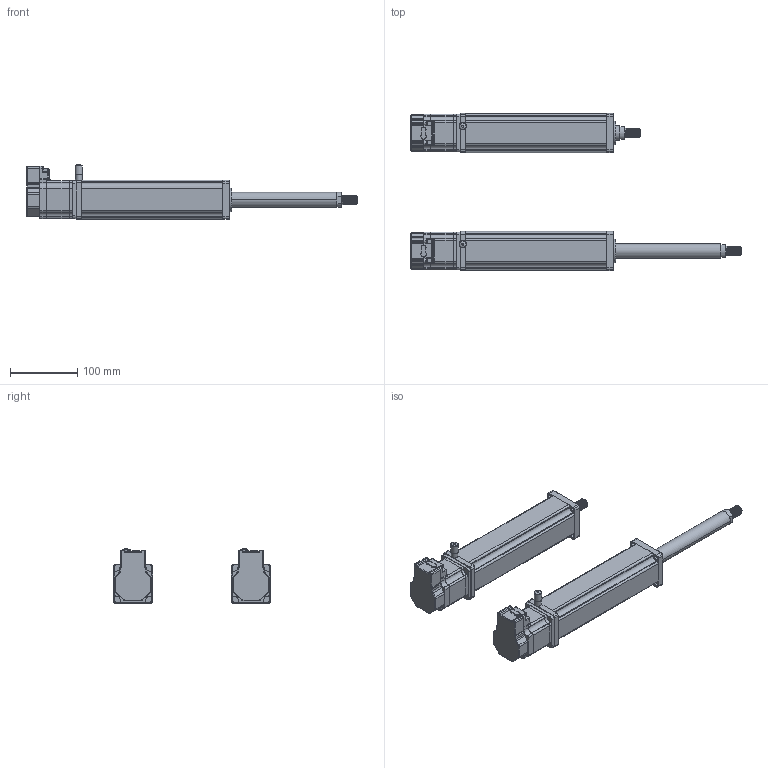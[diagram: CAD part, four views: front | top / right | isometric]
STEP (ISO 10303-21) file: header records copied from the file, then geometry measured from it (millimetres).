
FILE_DESCRIPTION(('FreeCAD Model'),'2;1');
FILE_NAME('Open CASCADE Shape Model','2023-08-04T13:56:19',('Author'),( ''),'Open CASCADE STEP processor 7.5','FreeCAD','Unknown');
FILE_SCHEMA(('AUTOMOTIVE_DESIGN { 1 0 10303 214 1 1 1 1 }'));
Length unit declared in the file: millimetre
Products named in the file (47): Unnamed; Shapes; Shapes001; Shapes002; Shapes003; Shapes004; Shapes005; Shapes006; Shapes007; Shapes008; Shapes009; Shapes010; Shapes011; Shapes012; Shapes013; Shapes014; Shapes015; Shapes016; Shapes017; Shapes018; Shapes019; Shapes020; Shapes021; Shapes022; Shapes023; Shapes024; Shapes025; Shapes026; Shapes027; Shapes028; Shapes029; Shapes030; Shapes031; Shapes032; Shapes033; Shapes034; Shapes035; Shapes036; Shapes037; Shapes038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
Assembly tree (46 placements, depth 2):
  Unnamed
    Shapes
    Shapes001
    Shapes002
    Shapes003
    Shapes004
    Shapes005
    Shapes006
    Shapes007
    Shapes008
    Shapes009
    Shapes010
    Shapes011
    Shapes012
    Shapes013
    Shapes014
    Shapes015
    Shapes016
    Shapes017
    Shapes018
    Shapes019
    Shapes020
    Shapes021
    Shapes022
    Shapes023
    Shapes024
    Shapes025
    Shapes026
    Shapes027
    Shapes028
    Shapes029
    Shapes030
    Shapes031
    Shapes032
    Shapes033
    Shapes034
    Shapes035
    Shapes036
    Shapes037
    Shapes038
    Shapes039
    Shapes040
    Shapes041
    Shapes042
    Shapes043
    AN10-01
    AN10-002
Bounding box: 490.49 x 233.23 x 81.32 mm (x, y, z)
Volume: 1891822.6 mm3; surface area: 268405.6 mm2
Topology: 46 solids, 46 shells, 1358 faces, 3600 edges, 2342 vertices
Faces by surface type: plane 770, cylinder 476, bspline 60, torus 38, sphere 10, cone 4
Full cylindrical faces by diameter (mm): 6 x2, 9.728 x2, 11 x2
Entity records: 146385 total; most frequent: CARTESIAN_POINT 73885, DIRECTION 13361, LINE 8411, VECTOR 8411, ORIENTED_EDGE 7168, PCURVE 7168, DEFINITIONAL_REPRESENTATION 7168, EDGE_CURVE 3584
